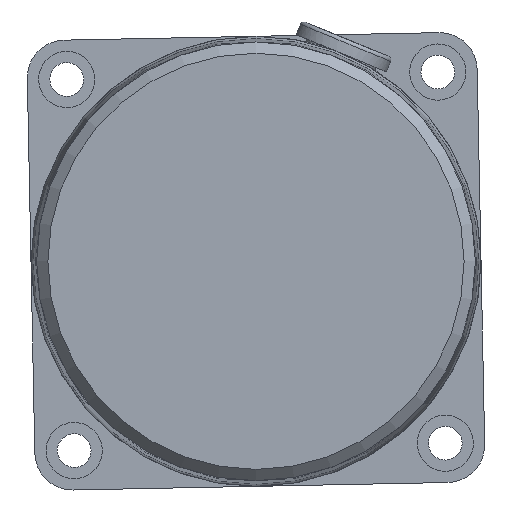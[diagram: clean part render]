
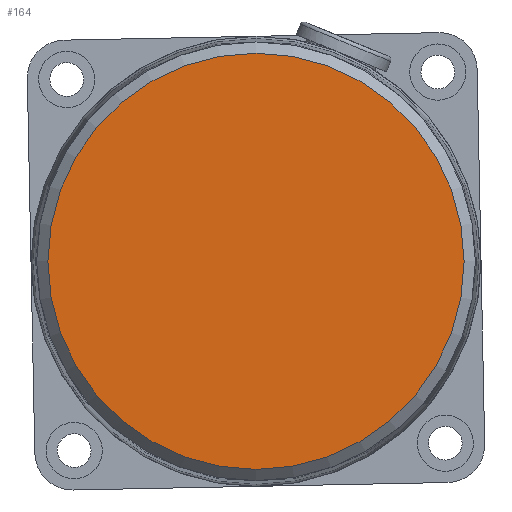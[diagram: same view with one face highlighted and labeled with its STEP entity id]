
A CAD part, left-side view. The second image highlights one B-rep face of the part: STEP entity #164.
In plain terms, the highlighted planar face has unit normal (-1, 0, 0).
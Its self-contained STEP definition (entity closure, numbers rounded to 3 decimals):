
#144=CARTESIAN_POINT('',(0.0,27.75,0.0));
#145=VERTEX_POINT('',#144);
#146=CARTESIAN_POINT('',(0.0,0.0,0.0));
#147=DIRECTION('',(1.0,0.0,0.0));
#148=DIRECTION('',(0.0,1.0,0.0));
#149=AXIS2_PLACEMENT_3D('',#146,#147,#148);
#150=CIRCLE('',#149,27.75);
#151=EDGE_CURVE('',#145,#145,#150,.T.);
#156=CARTESIAN_POINT('',(0.0,13.875,0.0));
#157=DIRECTION('',(-1.0,0.0,0.0));
#158=DIRECTION('',(0.0,0.0,1.0));
#159=AXIS2_PLACEMENT_3D('',#156,#157,#158);
#160=PLANE('',#159);
#161=ORIENTED_EDGE('',*,*,#151,.F.);
#162=EDGE_LOOP('',(#161));
#163=FACE_OUTER_BOUND('',#162,.T.);
#164=ADVANCED_FACE('',(#163),#160,.T.);
